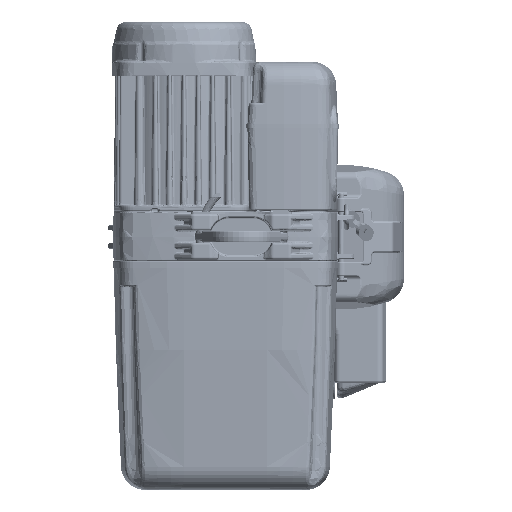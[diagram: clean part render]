
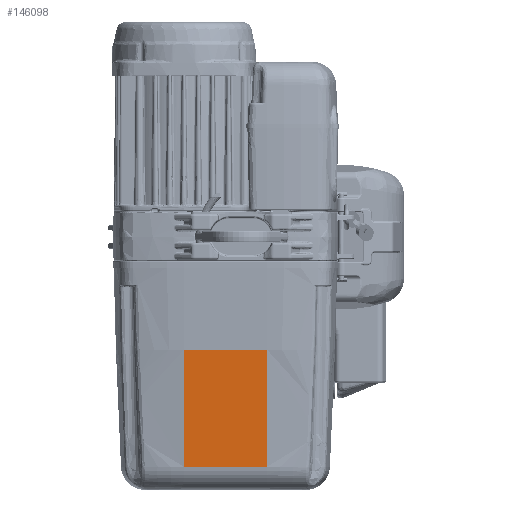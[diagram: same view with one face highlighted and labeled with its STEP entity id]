
A CAD part, top view. The second image highlights one B-rep face of the part: STEP entity #146098.
In plain terms, the highlighted planar face has unit normal (0, -0.044, 0.999).
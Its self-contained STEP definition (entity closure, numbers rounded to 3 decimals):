
#120548=CARTESIAN_POINT('',(-62.975,-94.,840.011));
#120549=VERTEX_POINT('',#120548);
#143292=CARTESIAN_POINT('',(6.025,-94.,840.011));
#143293=VERTEX_POINT('',#143292);
#143342=CARTESIAN_POINT('',(-62.975,-94.,840.011));
#143343=DIRECTION('',(1.0,0.0,0.0));
#143344=VECTOR('',#143343,69.0);
#143345=LINE('',#143342,#143344);
#143346=EDGE_CURVE('',#120549,#143293,#143345,.T.);
#145728=CARTESIAN_POINT('',(6.025,-191.372,835.759));
#145729=VERTEX_POINT('',#145728);
#145824=CARTESIAN_POINT('',(-62.975,-191.372,835.759));
#145825=VERTEX_POINT('',#145824);
#145833=CARTESIAN_POINT('',(-62.975,-94.,840.011));
#145834=DIRECTION('',(0.,-0.999,-0.044));
#145835=VECTOR('',#145834,97.465);
#145836=LINE('',#145833,#145835);
#145837=EDGE_CURVE('',#120549,#145825,#145836,.T.);
#146071=CARTESIAN_POINT('',(6.025,-191.372,835.759));
#146072=DIRECTION('',(-1.0,0.0,0.0));
#146073=VECTOR('',#146072,69.0);
#146074=LINE('',#146071,#146073);
#146075=EDGE_CURVE('',#145729,#145825,#146074,.T.);
#146082=CARTESIAN_POINT('',(-62.975,-94.,840.011));
#146083=DIRECTION('',(0.,-0.044,0.999));
#146084=DIRECTION('',(0.,-0.999,-0.044));
#146085=AXIS2_PLACEMENT_3D('',#146082,#146083,#146084);
#146086=PLANE('',#146085);
#146087=ORIENTED_EDGE('',*,*,#146075,.F.);
#146088=CARTESIAN_POINT('',(6.025,-94.,840.011));
#146089=DIRECTION('',(0.,-0.999,-0.044));
#146090=VECTOR('',#146089,97.465);
#146091=LINE('',#146088,#146090);
#146092=EDGE_CURVE('',#143293,#145729,#146091,.T.);
#146093=ORIENTED_EDGE('',*,*,#146092,.F.);
#146094=ORIENTED_EDGE('',*,*,#143346,.F.);
#146095=ORIENTED_EDGE('',*,*,#145837,.T.);
#146096=EDGE_LOOP('',(#146087,#146093,#146094,#146095));
#146097=FACE_OUTER_BOUND('',#146096,.T.);
#146098=ADVANCED_FACE('',(#146097),#146086,.T.);
